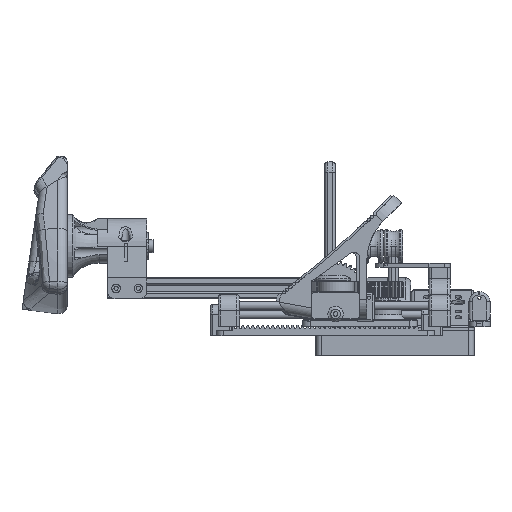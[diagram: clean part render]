
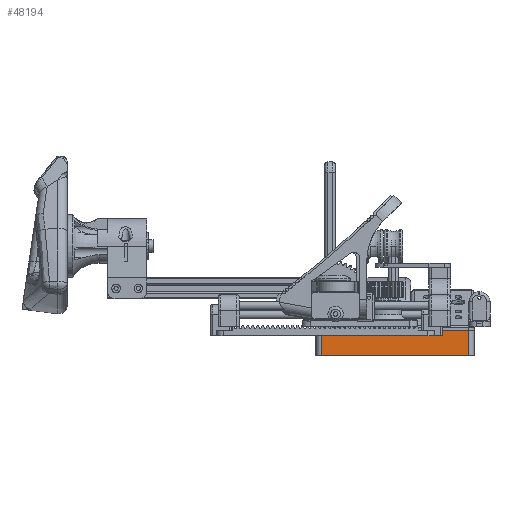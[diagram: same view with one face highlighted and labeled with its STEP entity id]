
A CAD part, front view. The second image highlights one B-rep face of the part: STEP entity #48194.
In plain terms, the highlighted planar face has unit normal (0, -1, 0).
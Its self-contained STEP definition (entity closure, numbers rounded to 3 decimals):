
#7629=FACE_OUTER_BOUND('',#10623,.T.);
#10623=EDGE_LOOP('',(#43514,#43515,#43516,#43517));
#13951=LINE('',#98682,#17315);
#13985=LINE('',#98764,#17349);
#13986=LINE('',#98768,#17350);
#13987=LINE('',#98769,#17351);
#17315=VECTOR('',#67367,10.);
#17349=VECTOR('',#67417,10.);
#17350=VECTOR('',#67422,10.);
#17351=VECTOR('',#67423,10.);
#22948=VERTEX_POINT('',#98679);
#22949=VERTEX_POINT('',#98681);
#22989=VERTEX_POINT('',#98763);
#22990=VERTEX_POINT('',#98767);
#29864=EDGE_CURVE('',#22948,#22949,#13951,.T.);
#29905=EDGE_CURVE('',#22949,#22989,#13985,.T.);
#29907=EDGE_CURVE('',#22990,#22948,#13986,.T.);
#29908=EDGE_CURVE('',#22989,#22990,#13987,.T.);
#43514=ORIENTED_EDGE('',*,*,#29905,.F.);
#43515=ORIENTED_EDGE('',*,*,#29864,.F.);
#43516=ORIENTED_EDGE('',*,*,#29907,.F.);
#43517=ORIENTED_EDGE('',*,*,#29908,.F.);
#45662=PLANE('',#53948);
#48194=ADVANCED_FACE('',(#7629),#45662,.T.);
#53948=AXIS2_PLACEMENT_3D('',#98766,#67420,#67421);
#67367=DIRECTION('',(1.,0.,0.));
#67417=DIRECTION('',(0.,0.,-1.));
#67420=DIRECTION('center_axis',(0.,-1.,0.));
#67421=DIRECTION('ref_axis',(1.,0.,0.));
#67422=DIRECTION('',(0.,0.,1.));
#67423=DIRECTION('',(-1.,0.,0.));
#98679=CARTESIAN_POINT('',(105.,150.,24.));
#98681=CARTESIAN_POINT('',(245.,150.,24.));
#98682=CARTESIAN_POINT('',(100.,150.,24.));
#98763=CARTESIAN_POINT('',(245.,150.,0.));
#98764=CARTESIAN_POINT('',(245.,150.,0.));
#98766=CARTESIAN_POINT('Origin',(100.,150.,0.));
#98767=CARTESIAN_POINT('',(105.,150.,0.));
#98768=CARTESIAN_POINT('',(105.,150.,0.));
#98769=CARTESIAN_POINT('',(250.,150.,0.));
